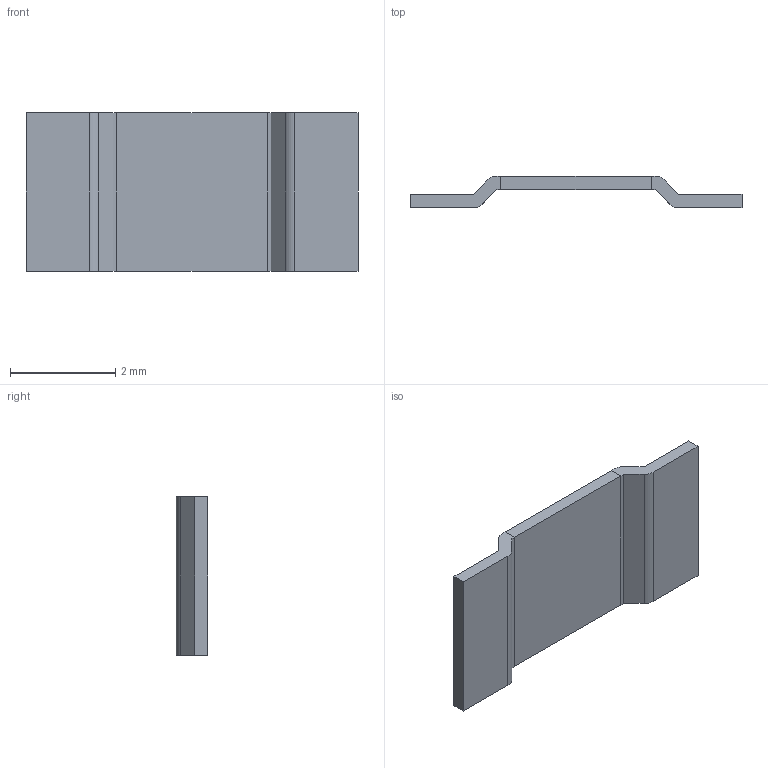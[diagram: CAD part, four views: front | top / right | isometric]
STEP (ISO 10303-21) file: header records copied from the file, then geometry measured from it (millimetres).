
FILE_DESCRIPTION (( 'STEP AP203' ), '1' );
FILE_NAME ('EBWK 2512-5m¦¸.STEP', '2023-11-01T05:46:11', ( 'meks@163.com' ), ( '' ), 'SwSTEP 2.0', 'SolidWorks 2020', '' );
FILE_SCHEMA (( 'CONFIG_CONTROL_DESIGN' ));
Length unit declared in the file: millimetre
Products named in the file (1): EBWK 2512-5m次
Bounding box: 6.3 x 0.6 x 3 mm (x, y, z)
Volume: 4.9 mm3; surface area: 47.7 mm2
Topology: 3 solids, 3 shells, 146 faces, 390 edges, 260 vertices
Faces by surface type: plane 111, bspline 23, cylinder 12
Entity records: 5957 total; most frequent: CARTESIAN_POINT 2364, ORIENTED_EDGE 780, DIRECTION 616, EDGE_CURVE 390, LINE 320, VECTOR 320, VERTEX_POINT 260, EDGE_LOOP 156
